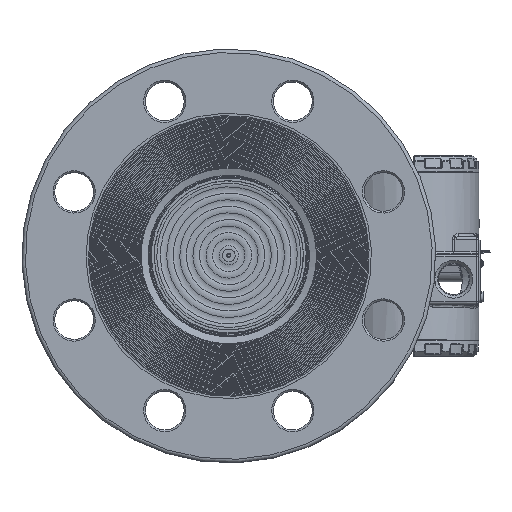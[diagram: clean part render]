
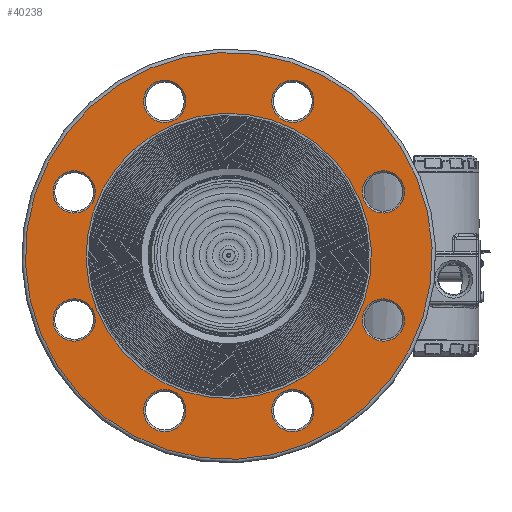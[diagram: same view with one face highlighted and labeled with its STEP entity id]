
A CAD part, top view. The second image highlights one B-rep face of the part: STEP entity #40238.
In plain terms, the highlighted planar face has unit normal (0, 0, 1).
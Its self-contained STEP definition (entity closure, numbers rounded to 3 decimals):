
#779=FACE_BOUND('',#6897,.T.);
#780=FACE_BOUND('',#6898,.T.);
#781=FACE_BOUND('',#6899,.T.);
#782=FACE_BOUND('',#6900,.T.);
#783=FACE_BOUND('',#6901,.T.);
#784=FACE_BOUND('',#6902,.T.);
#785=FACE_BOUND('',#6903,.T.);
#786=FACE_BOUND('',#6904,.T.);
#787=FACE_BOUND('',#6905,.T.);
#2863=PLANE('',#44767);
#4136=FACE_OUTER_BOUND('',#6896,.T.);
#6896=EDGE_LOOP('',(#30822));
#6897=EDGE_LOOP('',(#30823));
#6898=EDGE_LOOP('',(#30824));
#6899=EDGE_LOOP('',(#30825));
#6900=EDGE_LOOP('',(#30826));
#6901=EDGE_LOOP('',(#30827));
#6902=EDGE_LOOP('',(#30828));
#6903=EDGE_LOOP('',(#30829));
#6904=EDGE_LOOP('',(#30830));
#6905=EDGE_LOOP('',(#30831));
#12953=CIRCLE('',#44766,115.5);
#12954=CIRCLE('',#44768,12.);
#12955=CIRCLE('',#44769,12.);
#12956=CIRCLE('',#44770,12.);
#12957=CIRCLE('',#44771,12.);
#12958=CIRCLE('',#44772,81.);
#12959=CIRCLE('',#44773,12.);
#12960=CIRCLE('',#44774,12.);
#12961=CIRCLE('',#44775,12.);
#12962=CIRCLE('',#44776,12.);
#17636=VERTEX_POINT('',#71814);
#17637=VERTEX_POINT('',#71818);
#17638=VERTEX_POINT('',#71820);
#17639=VERTEX_POINT('',#71822);
#17640=VERTEX_POINT('',#71824);
#17641=VERTEX_POINT('',#71826);
#17642=VERTEX_POINT('',#71828);
#17643=VERTEX_POINT('',#71830);
#17644=VERTEX_POINT('',#71832);
#17645=VERTEX_POINT('',#71834);
#22286=EDGE_CURVE('',#17636,#17636,#12953,.T.);
#22287=EDGE_CURVE('',#17637,#17637,#12954,.T.);
#22288=EDGE_CURVE('',#17638,#17638,#12955,.T.);
#22289=EDGE_CURVE('',#17639,#17639,#12956,.T.);
#22290=EDGE_CURVE('',#17640,#17640,#12957,.T.);
#22291=EDGE_CURVE('',#17641,#17641,#12958,.T.);
#22292=EDGE_CURVE('',#17642,#17642,#12959,.T.);
#22293=EDGE_CURVE('',#17643,#17643,#12960,.T.);
#22294=EDGE_CURVE('',#17644,#17644,#12961,.T.);
#22295=EDGE_CURVE('',#17645,#17645,#12962,.T.);
#30822=ORIENTED_EDGE('',*,*,#22286,.F.);
#30823=ORIENTED_EDGE('',*,*,#22287,.F.);
#30824=ORIENTED_EDGE('',*,*,#22288,.F.);
#30825=ORIENTED_EDGE('',*,*,#22289,.F.);
#30826=ORIENTED_EDGE('',*,*,#22290,.F.);
#30827=ORIENTED_EDGE('',*,*,#22291,.F.);
#30828=ORIENTED_EDGE('',*,*,#22292,.F.);
#30829=ORIENTED_EDGE('',*,*,#22293,.F.);
#30830=ORIENTED_EDGE('',*,*,#22294,.F.);
#30831=ORIENTED_EDGE('',*,*,#22295,.F.);
#40238=ADVANCED_FACE('',(#4136,#779,#780,#781,#782,#783,#784,#785,#786,
#787),#2863,.T.);
#44766=AXIS2_PLACEMENT_3D('',#71816,#53126,#53127);
#44767=AXIS2_PLACEMENT_3D('',#71817,#53128,#53129);
#44768=AXIS2_PLACEMENT_3D('',#71819,#53130,#53131);
#44769=AXIS2_PLACEMENT_3D('',#71821,#53132,#53133);
#44770=AXIS2_PLACEMENT_3D('',#71823,#53134,#53135);
#44771=AXIS2_PLACEMENT_3D('',#71825,#53136,#53137);
#44772=AXIS2_PLACEMENT_3D('',#71827,#53138,#53139);
#44773=AXIS2_PLACEMENT_3D('',#71829,#53140,#53141);
#44774=AXIS2_PLACEMENT_3D('',#71831,#53142,#53143);
#44775=AXIS2_PLACEMENT_3D('',#71833,#53144,#53145);
#44776=AXIS2_PLACEMENT_3D('',#71835,#53146,#53147);
#53126=DIRECTION('center_axis',(0.,0.,-1.));
#53127=DIRECTION('ref_axis',(-1.,0.,0.));
#53128=DIRECTION('center_axis',(0.,0.,1.));
#53129=DIRECTION('ref_axis',(1.,0.,0.));
#53130=DIRECTION('center_axis',(0.,0.,1.));
#53131=DIRECTION('ref_axis',(-0.707,0.707,0.));
#53132=DIRECTION('center_axis',(0.,0.,1.));
#53133=DIRECTION('ref_axis',(0.707,0.707,0.));
#53134=DIRECTION('center_axis',(0.,0.,1.));
#53135=DIRECTION('ref_axis',(-0.707,-0.707,0.));
#53136=DIRECTION('center_axis',(0.,0.,1.));
#53137=DIRECTION('ref_axis',(0.,-1.,0.));
#53138=DIRECTION('center_axis',(0.,0.,1.));
#53139=DIRECTION('ref_axis',(-1.,0.,0.));
#53140=DIRECTION('center_axis',(0.,0.,1.));
#53141=DIRECTION('ref_axis',(0.707,-0.707,0.));
#53142=DIRECTION('center_axis',(0.,0.,1.));
#53143=DIRECTION('ref_axis',(-1.,0.,0.));
#53144=DIRECTION('center_axis',(0.,0.,1.));
#53145=DIRECTION('ref_axis',(1.,0.,0.));
#53146=DIRECTION('center_axis',(0.,0.,1.));
#53147=DIRECTION('ref_axis',(0.,1.,0.));
#71814=CARTESIAN_POINT('',(115.5,0.,21.));
#71816=CARTESIAN_POINT('Origin',(0.,0.,21.));
#71817=CARTESIAN_POINT('Origin',(0.,0.,21.));
#71818=CARTESIAN_POINT('',(75.66,58.69,21.));
#71819=CARTESIAN_POINT('Origin',(67.175,67.175,21.));
#71820=CARTESIAN_POINT('',(58.69,-75.66,21.));
#71821=CARTESIAN_POINT('Origin',(67.175,-67.175,21.));
#71822=CARTESIAN_POINT('',(-58.69,75.66,21.));
#71823=CARTESIAN_POINT('Origin',(-67.175,67.175,21.));
#71824=CARTESIAN_POINT('',(-95.,12.,21.));
#71825=CARTESIAN_POINT('Origin',(-95.,0.,21.));
#71826=CARTESIAN_POINT('',(81.,0.,21.));
#71827=CARTESIAN_POINT('Origin',(0.,0.,21.));
#71828=CARTESIAN_POINT('',(-75.66,-58.69,21.));
#71829=CARTESIAN_POINT('Origin',(-67.175,-67.175,21.));
#71830=CARTESIAN_POINT('',(12.,95.,21.));
#71831=CARTESIAN_POINT('Origin',(0.,95.,21.));
#71832=CARTESIAN_POINT('',(-12.,-95.,21.));
#71833=CARTESIAN_POINT('Origin',(0.,-95.,21.));
#71834=CARTESIAN_POINT('',(95.,-12.,21.));
#71835=CARTESIAN_POINT('Origin',(95.,0.,21.));
